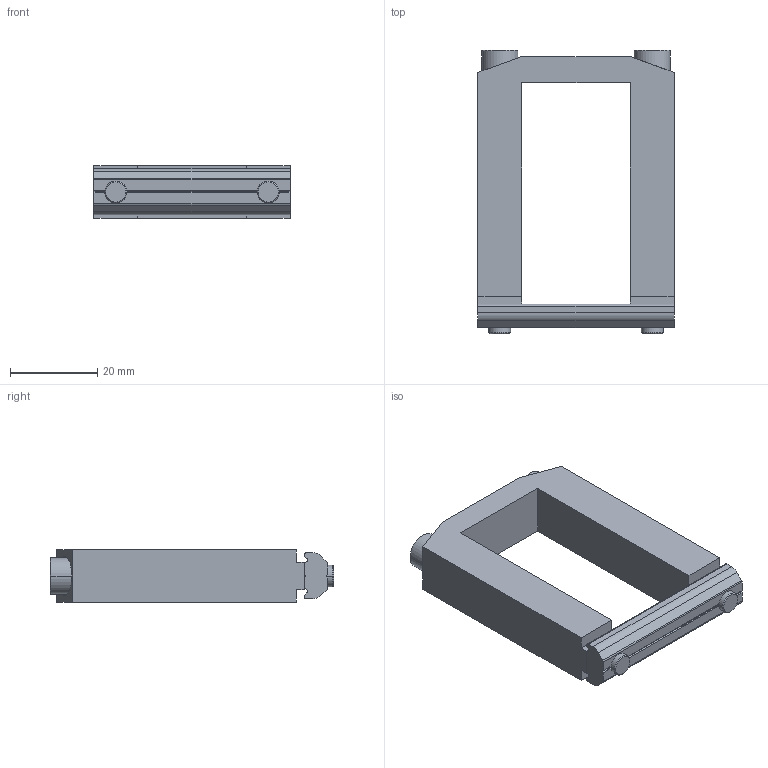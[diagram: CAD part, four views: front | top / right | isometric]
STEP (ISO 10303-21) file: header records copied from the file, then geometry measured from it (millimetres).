
FILE_DESCRIPTION (( 'STEP AP214' ), '1' );
FILE_NAME ('SMBB-5025.STEP', '2019-10-31T03:50:24', ( '微软用户' ), ( '微软中国' ), 'SwSTEP 2.0', 'SolidWorks 2016', '' );
FILE_SCHEMA (( 'AUTOMOTIVE_DESIGN' ));
Length unit declared in the file: millimetre
Products named in the file (5): PTS-M5; PTN-M5P35; PTC-M5L60; SMBB-5025
Assembly tree (6 placements, depth 2):
  SMBB-5025
    SMBB-5025
    PTC-M5L60  x2
    PTN-M5P35
    PTS-M5  x2
Bounding box: 45 x 65 x 12 mm (x, y, z)
Volume: 17086.4 mm3; surface area: 12039.1 mm2
Topology: 6 solids, 6 shells, 450 faces, 1300 edges, 860 vertices
Faces by surface type: plane 392, cylinder 46, cone 12
Entity records: 9094 total; most frequent: CARTESIAN_POINT 1737, ORIENTED_EDGE 1532, DIRECTION 1518, EDGE_CURVE 766, AXIS2_PLACEMENT_3D 507, VERTEX_POINT 506, LINE 504, VECTOR 504
